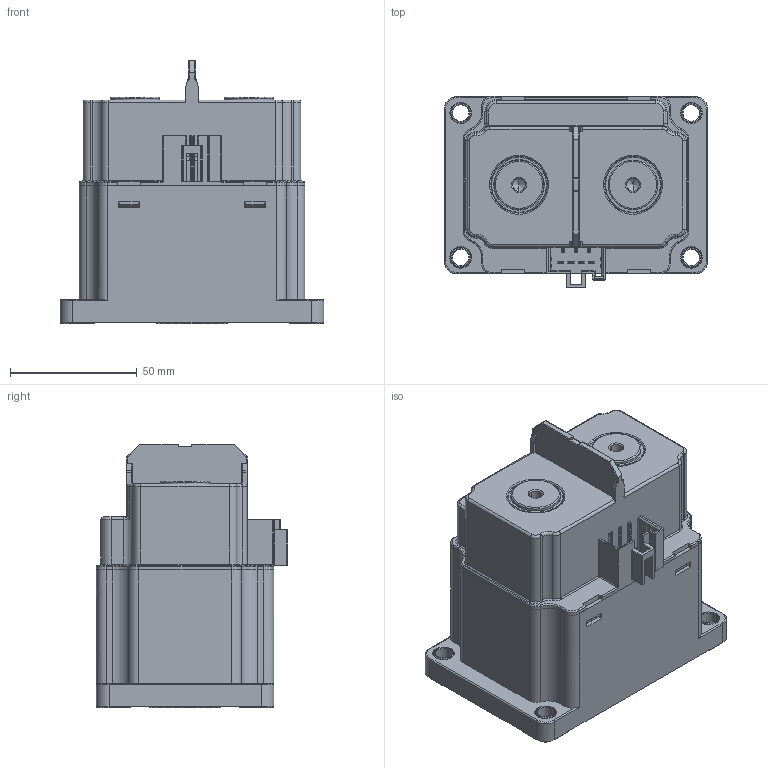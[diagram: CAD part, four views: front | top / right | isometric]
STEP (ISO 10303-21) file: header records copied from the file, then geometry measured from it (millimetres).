
FILE_DESCRIPTION (( 'STEP AP214' ), '1' );
FILE_NAME ('CHPV-S350D諉揖ん.STEP', '2022-08-16T07:06:14', ( '' ), ( '' ), 'SwSTEP 2.0', 'SolidWorks 2016', '' );
FILE_SCHEMA (( 'AUTOMOTIVE_DESIGN' ));
Length unit declared in the file: millimetre
Products named in the file (1): CHPV-S350D諉揖ん
Bounding box: 104 x 75.5 x 104 mm (x, y, z)
Volume: 104437.8 mm3; surface area: 120393.9 mm2
Topology: 13 solids, 13 shells, 3614 faces, 8923 edges, 5131 vertices
Faces by surface type: cylinder 1450, plane 936, torus 629, bspline 324, sphere 181, cone 94
Entity records: 149725 total; most frequent: CARTESIAN_POINT 26627, DIRECTION 18226, ORIENTED_EDGE 17324, EDGE_CURVE 8662, AXIS2_PLACEMENT_3D 7148, VERTEX_POINT 5131, VECTOR 3930, LINE 3930
